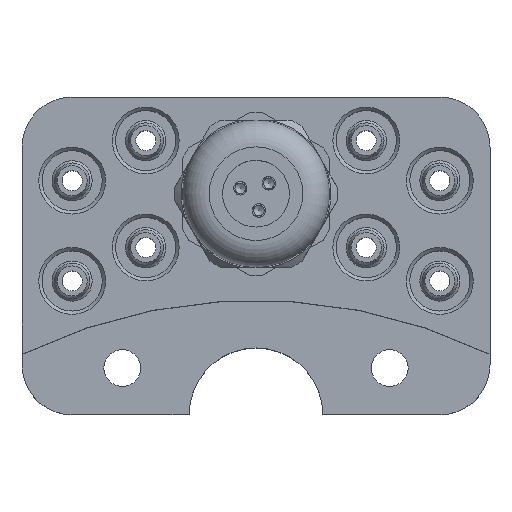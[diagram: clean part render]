
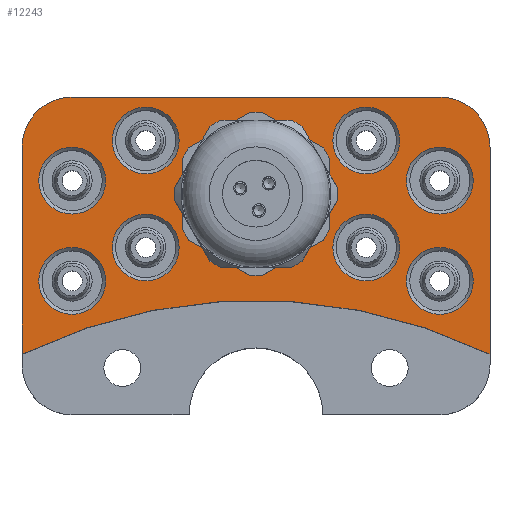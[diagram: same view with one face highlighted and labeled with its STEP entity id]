
A CAD part, top view. The second image highlights one B-rep face of the part: STEP entity #12243.
In plain terms, the highlighted planar face has unit normal (0, 0, 1).
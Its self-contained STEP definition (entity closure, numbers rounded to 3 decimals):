
#12082=CARTESIAN_POINT('',(9.55,33.0,0.0));
#12083=VERTEX_POINT('',#12082);
#12084=CARTESIAN_POINT('',(0.0,33.0,0.0));
#12085=DIRECTION('',(0.0,0.0,1.0));
#12086=DIRECTION('',(-1.0,0.0,0.0));
#12087=AXIS2_PLACEMENT_3D('',#12084,#12085,#12086);
#12088=CIRCLE('',#12087,9.55);
#12089=EDGE_CURVE('',#12083,#12083,#12088,.T.);
#12094=CARTESIAN_POINT('',(0.,23.381,0.0));
#12095=DIRECTION('',(0.0,0.0,1.0));
#12096=DIRECTION('',(1.0,0.0,0.0));
#12097=AXIS2_PLACEMENT_3D('',#12094,#12095,#12096);
#12098=PLANE('',#12097);
#12099=CARTESIAN_POINT('',(27.5,47.5,0.0));
#12100=VERTEX_POINT('',#12099);
#12101=CARTESIAN_POINT('',(35.,40.0,0.0));
#12102=VERTEX_POINT('',#12101);
#12103=CARTESIAN_POINT('',(27.5,40.0,0.0));
#12104=DIRECTION('',(0.0,0.0,-1.));
#12105=DIRECTION('',(0.707,0.707,0.0));
#12106=AXIS2_PLACEMENT_3D('',#12103,#12104,#12105);
#12107=CIRCLE('',#12106,7.5);
#12108=EDGE_CURVE('',#12100,#12102,#12107,.T.);
#12109=ORIENTED_EDGE('',*,*,#12108,.F.);
#12110=CARTESIAN_POINT('',(-27.5,47.5,0.0));
#12111=VERTEX_POINT('',#12110);
#12112=CARTESIAN_POINT('',(27.5,47.5,0.0));
#12113=DIRECTION('',(-1.0,0.0,0.0));
#12114=VECTOR('',#12113,55.0);
#12115=LINE('',#12112,#12114);
#12116=EDGE_CURVE('',#12100,#12111,#12115,.T.);
#12117=ORIENTED_EDGE('',*,*,#12116,.T.);
#12118=CARTESIAN_POINT('',(-35.,40.0,0.0));
#12119=VERTEX_POINT('',#12118);
#12120=CARTESIAN_POINT('',(-27.5,40.0,0.0));
#12121=DIRECTION('',(0.0,0.0,-1.));
#12122=DIRECTION('',(-0.707,0.707,0.0));
#12123=AXIS2_PLACEMENT_3D('',#12120,#12121,#12122);
#12124=CIRCLE('',#12123,7.5);
#12125=EDGE_CURVE('',#12119,#12111,#12124,.T.);
#12126=ORIENTED_EDGE('',*,*,#12125,.F.);
#12127=CARTESIAN_POINT('',(-35.,9.049,0.0));
#12128=VERTEX_POINT('',#12127);
#12129=CARTESIAN_POINT('',(-35.,40.0,0.0));
#12130=DIRECTION('',(0.0,-1.0,0.0));
#12131=VECTOR('',#12130,30.951);
#12132=LINE('',#12129,#12131);
#12133=EDGE_CURVE('',#12119,#12128,#12132,.T.);
#12134=ORIENTED_EDGE('',*,*,#12133,.T.);
#12135=CARTESIAN_POINT('',(35.,9.049,0.0));
#12136=VERTEX_POINT('',#12135);
#12137=CARTESIAN_POINT('',(0.0,-63.,0.0));
#12138=DIRECTION('',(0.0,0.0,-1.0));
#12139=DIRECTION('',(-1.0,0.0,0.0));
#12140=AXIS2_PLACEMENT_3D('',#12137,#12138,#12139);
#12141=CIRCLE('',#12140,80.1);
#12142=EDGE_CURVE('',#12128,#12136,#12141,.T.);
#12143=ORIENTED_EDGE('',*,*,#12142,.T.);
#12144=CARTESIAN_POINT('',(35.,9.049,0.0));
#12145=DIRECTION('',(0.0,1.0,0.0));
#12146=VECTOR('',#12145,30.951);
#12147=LINE('',#12144,#12146);
#12148=EDGE_CURVE('',#12136,#12102,#12147,.T.);
#12149=ORIENTED_EDGE('',*,*,#12148,.T.);
#12150=EDGE_LOOP('',(#12109,#12117,#12126,#12134,#12143,#12149));
#12151=FACE_OUTER_BOUND('',#12150,.T.);
#12152=CARTESIAN_POINT('',(21.5,41.,0.0));
#12153=VERTEX_POINT('',#12152);
#12154=CARTESIAN_POINT('',(16.5,41.,0.0));
#12155=DIRECTION('',(0.0,0.0,1.0));
#12156=DIRECTION('',(-1.0,0.0,0.0));
#12157=AXIS2_PLACEMENT_3D('',#12154,#12155,#12156);
#12158=CIRCLE('',#12157,5.0);
#12159=EDGE_CURVE('',#12153,#12153,#12158,.T.);
#12160=ORIENTED_EDGE('',*,*,#12159,.F.);
#12161=EDGE_LOOP('',(#12160));
#12162=FACE_BOUND('',#12161,.T.);
#12163=CARTESIAN_POINT('',(-11.5,25.0,0.0));
#12164=VERTEX_POINT('',#12163);
#12165=CARTESIAN_POINT('',(-16.5,25.0,0.0));
#12166=DIRECTION('',(0.0,0.0,1.0));
#12167=DIRECTION('',(-1.0,0.0,0.0));
#12168=AXIS2_PLACEMENT_3D('',#12165,#12166,#12167);
#12169=CIRCLE('',#12168,5.);
#12170=EDGE_CURVE('',#12164,#12164,#12169,.T.);
#12171=ORIENTED_EDGE('',*,*,#12170,.F.);
#12172=EDGE_LOOP('',(#12171));
#12173=FACE_BOUND('',#12172,.T.);
#12174=CARTESIAN_POINT('',(-22.5,20.0,0.0));
#12175=VERTEX_POINT('',#12174);
#12176=CARTESIAN_POINT('',(-27.5,20.0,0.0));
#12177=DIRECTION('',(0.0,0.0,1.0));
#12178=DIRECTION('',(-1.0,0.0,0.0));
#12179=AXIS2_PLACEMENT_3D('',#12176,#12177,#12178);
#12180=CIRCLE('',#12179,5.);
#12181=EDGE_CURVE('',#12175,#12175,#12180,.T.);
#12182=ORIENTED_EDGE('',*,*,#12181,.F.);
#12183=EDGE_LOOP('',(#12182));
#12184=FACE_BOUND('',#12183,.T.);
#12185=CARTESIAN_POINT('',(-22.5,35.0,0.0));
#12186=VERTEX_POINT('',#12185);
#12187=CARTESIAN_POINT('',(-27.5,35.0,0.0));
#12188=DIRECTION('',(0.0,0.0,1.0));
#12189=DIRECTION('',(-1.0,0.0,0.0));
#12190=AXIS2_PLACEMENT_3D('',#12187,#12188,#12189);
#12191=CIRCLE('',#12190,5.);
#12192=EDGE_CURVE('',#12186,#12186,#12191,.T.);
#12193=ORIENTED_EDGE('',*,*,#12192,.F.);
#12194=EDGE_LOOP('',(#12193));
#12195=FACE_BOUND('',#12194,.T.);
#12196=CARTESIAN_POINT('',(-11.5,41.,0.0));
#12197=VERTEX_POINT('',#12196);
#12198=CARTESIAN_POINT('',(-16.5,41.,0.0));
#12199=DIRECTION('',(0.0,0.0,1.0));
#12200=DIRECTION('',(-1.0,0.0,0.0));
#12201=AXIS2_PLACEMENT_3D('',#12198,#12199,#12200);
#12202=CIRCLE('',#12201,5.);
#12203=EDGE_CURVE('',#12197,#12197,#12202,.T.);
#12204=ORIENTED_EDGE('',*,*,#12203,.F.);
#12205=EDGE_LOOP('',(#12204));
#12206=FACE_BOUND('',#12205,.T.);
#12207=CARTESIAN_POINT('',(32.5,35.,0.0));
#12208=VERTEX_POINT('',#12207);
#12209=CARTESIAN_POINT('',(27.5,35.,0.0));
#12210=DIRECTION('',(0.0,0.0,1.0));
#12211=DIRECTION('',(-1.0,0.0,0.0));
#12212=AXIS2_PLACEMENT_3D('',#12209,#12210,#12211);
#12213=CIRCLE('',#12212,5.);
#12214=EDGE_CURVE('',#12208,#12208,#12213,.T.);
#12215=ORIENTED_EDGE('',*,*,#12214,.F.);
#12216=EDGE_LOOP('',(#12215));
#12217=FACE_BOUND('',#12216,.T.);
#12218=CARTESIAN_POINT('',(32.5,20.0,0.0));
#12219=VERTEX_POINT('',#12218);
#12220=CARTESIAN_POINT('',(27.5,20.0,0.0));
#12221=DIRECTION('',(0.0,0.0,1.0));
#12222=DIRECTION('',(-1.0,0.0,0.0));
#12223=AXIS2_PLACEMENT_3D('',#12220,#12221,#12222);
#12224=CIRCLE('',#12223,5.);
#12225=EDGE_CURVE('',#12219,#12219,#12224,.T.);
#12226=ORIENTED_EDGE('',*,*,#12225,.F.);
#12227=EDGE_LOOP('',(#12226));
#12228=FACE_BOUND('',#12227,.T.);
#12229=CARTESIAN_POINT('',(21.5,25.0,0.0));
#12230=VERTEX_POINT('',#12229);
#12231=CARTESIAN_POINT('',(16.5,25.0,0.0));
#12232=DIRECTION('',(0.0,0.0,1.0));
#12233=DIRECTION('',(-1.0,0.0,0.0));
#12234=AXIS2_PLACEMENT_3D('',#12231,#12232,#12233);
#12235=CIRCLE('',#12234,5.0);
#12236=EDGE_CURVE('',#12230,#12230,#12235,.T.);
#12237=ORIENTED_EDGE('',*,*,#12236,.F.);
#12238=EDGE_LOOP('',(#12237));
#12239=FACE_BOUND('',#12238,.T.);
#12240=ORIENTED_EDGE('',*,*,#12089,.F.);
#12241=EDGE_LOOP('',(#12240));
#12242=FACE_BOUND('',#12241,.T.);
#12243=ADVANCED_FACE('',(#12151,#12162,#12173,#12184,#12195,#12206,#12217,#12228,#12239,#12242),#12098,.T.);
